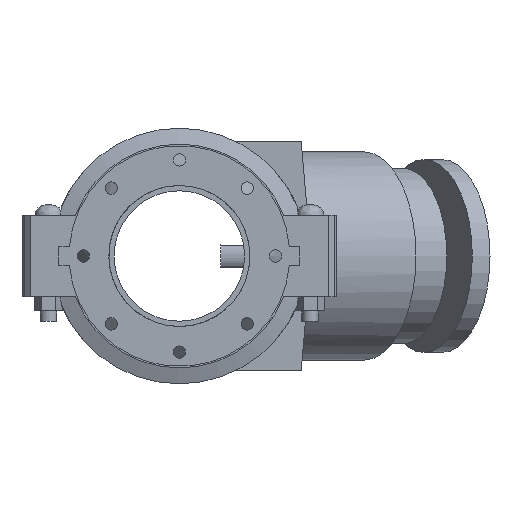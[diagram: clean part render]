
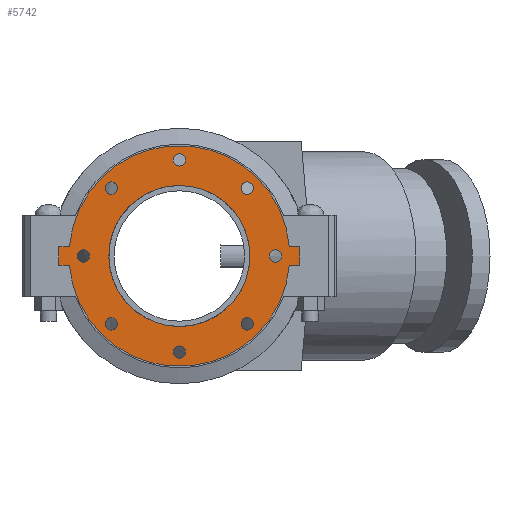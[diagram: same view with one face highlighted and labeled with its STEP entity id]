
A CAD part, front view. The second image highlights one B-rep face of the part: STEP entity #5742.
In plain terms, the highlighted planar face has unit normal (0, -1, 0) as drawn and (0, 0, 1) by its records, which use the part's own axes.
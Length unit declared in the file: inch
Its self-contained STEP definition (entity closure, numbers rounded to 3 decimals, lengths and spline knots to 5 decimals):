
#156=FACE_BOUND('',#763,.T.);
#157=FACE_BOUND('',#764,.T.);
#158=FACE_BOUND('',#765,.T.);
#159=FACE_BOUND('',#766,.T.);
#160=FACE_BOUND('',#767,.T.);
#161=FACE_BOUND('',#768,.T.);
#162=FACE_BOUND('',#769,.T.);
#163=FACE_BOUND('',#770,.T.);
#164=FACE_BOUND('',#771,.T.);
#234=PLANE('',#6293);
#435=FACE_OUTER_BOUND('',#762,.T.);
#762=EDGE_LOOP('',(#3763,#3764,#3765,#3766,#3767,#3768,#3769,#3770));
#763=EDGE_LOOP('',(#3771));
#764=EDGE_LOOP('',(#3772));
#765=EDGE_LOOP('',(#3773));
#766=EDGE_LOOP('',(#3774));
#767=EDGE_LOOP('',(#3775));
#768=EDGE_LOOP('',(#3776));
#769=EDGE_LOOP('',(#3777));
#770=EDGE_LOOP('',(#3778));
#771=EDGE_LOOP('',(#3779,#3780));
#1153=LINE('',#8836,#1572);
#1154=LINE('',#8839,#1573);
#1157=LINE('',#8844,#1576);
#1158=LINE('',#8847,#1577);
#1160=LINE('',#8850,#1579);
#1161=LINE('',#8852,#1580);
#1572=VECTOR('',#7039,0.3937);
#1573=VECTOR('',#7042,0.3937);
#1576=VECTOR('',#7047,0.3937);
#1577=VECTOR('',#7050,0.3937);
#1579=VECTOR('',#7054,0.3937);
#1580=VECTOR('',#7057,0.3937);
#1971=CIRCLE('',#6252,0.375);
#1973=CIRCLE('',#6255,0.375);
#1975=CIRCLE('',#6258,0.375);
#1977=CIRCLE('',#6261,0.375);
#1979=CIRCLE('',#6264,0.375);
#1981=CIRCLE('',#6267,0.375);
#1983=CIRCLE('',#6270,0.375);
#1985=CIRCLE('',#6273,0.375);
#1991=CIRCLE('',#6281,6.75);
#1992=CIRCLE('',#6283,4.3125);
#1993=CIRCLE('',#6284,4.3125);
#1994=CIRCLE('',#6286,6.75);
#2311=VERTEX_POINT('',#8747);
#2313=VERTEX_POINT('',#8753);
#2315=VERTEX_POINT('',#8759);
#2317=VERTEX_POINT('',#8765);
#2319=VERTEX_POINT('',#8771);
#2321=VERTEX_POINT('',#8777);
#2323=VERTEX_POINT('',#8783);
#2325=VERTEX_POINT('',#8789);
#2337=VERTEX_POINT('',#8816);
#2338=VERTEX_POINT('',#8818);
#2339=VERTEX_POINT('',#8822);
#2340=VERTEX_POINT('',#8824);
#2341=VERTEX_POINT('',#8828);
#2342=VERTEX_POINT('',#8830);
#2343=VERTEX_POINT('',#8834);
#2344=VERTEX_POINT('',#8838);
#2345=VERTEX_POINT('',#8842);
#2346=VERTEX_POINT('',#8846);
#2867=EDGE_CURVE('',#2311,#2311,#1971,.T.);
#2870=EDGE_CURVE('',#2313,#2313,#1973,.T.);
#2873=EDGE_CURVE('',#2315,#2315,#1975,.T.);
#2876=EDGE_CURVE('',#2317,#2317,#1977,.T.);
#2879=EDGE_CURVE('',#2319,#2319,#1979,.T.);
#2882=EDGE_CURVE('',#2321,#2321,#1981,.T.);
#2885=EDGE_CURVE('',#2323,#2323,#1983,.T.);
#2888=EDGE_CURVE('',#2325,#2325,#1985,.T.);
#2903=EDGE_CURVE('',#2337,#2338,#1991,.T.);
#2905=EDGE_CURVE('',#2340,#2339,#1992,.T.);
#2906=EDGE_CURVE('',#2339,#2340,#1993,.T.);
#2908=EDGE_CURVE('',#2342,#2341,#1994,.T.);
#2911=EDGE_CURVE('',#2338,#2343,#1153,.T.);
#2912=EDGE_CURVE('',#2344,#2342,#1154,.T.);
#2915=EDGE_CURVE('',#2341,#2345,#1157,.T.);
#2916=EDGE_CURVE('',#2346,#2337,#1158,.T.);
#2918=EDGE_CURVE('',#2345,#2346,#1160,.T.);
#2919=EDGE_CURVE('',#2343,#2344,#1161,.T.);
#3763=ORIENTED_EDGE('',*,*,#2915,.T.);
#3764=ORIENTED_EDGE('',*,*,#2918,.T.);
#3765=ORIENTED_EDGE('',*,*,#2916,.T.);
#3766=ORIENTED_EDGE('',*,*,#2903,.T.);
#3767=ORIENTED_EDGE('',*,*,#2911,.T.);
#3768=ORIENTED_EDGE('',*,*,#2919,.T.);
#3769=ORIENTED_EDGE('',*,*,#2912,.T.);
#3770=ORIENTED_EDGE('',*,*,#2908,.T.);
#3771=ORIENTED_EDGE('',*,*,#2867,.T.);
#3772=ORIENTED_EDGE('',*,*,#2870,.T.);
#3773=ORIENTED_EDGE('',*,*,#2873,.T.);
#3774=ORIENTED_EDGE('',*,*,#2876,.T.);
#3775=ORIENTED_EDGE('',*,*,#2879,.T.);
#3776=ORIENTED_EDGE('',*,*,#2882,.T.);
#3777=ORIENTED_EDGE('',*,*,#2885,.T.);
#3778=ORIENTED_EDGE('',*,*,#2888,.T.);
#3779=ORIENTED_EDGE('',*,*,#2905,.T.);
#3780=ORIENTED_EDGE('',*,*,#2906,.T.);
#5742=ADVANCED_FACE('',(#435,#156,#157,#158,#159,#160,#161,#162,#163,#164),
#234,.T.);
#6252=AXIS2_PLACEMENT_3D('',#8748,#6947,#6948);
#6255=AXIS2_PLACEMENT_3D('',#8754,#6954,#6955);
#6258=AXIS2_PLACEMENT_3D('',#8760,#6961,#6962);
#6261=AXIS2_PLACEMENT_3D('',#8766,#6968,#6969);
#6264=AXIS2_PLACEMENT_3D('',#8772,#6975,#6976);
#6267=AXIS2_PLACEMENT_3D('',#8778,#6982,#6983);
#6270=AXIS2_PLACEMENT_3D('',#8784,#6989,#6990);
#6273=AXIS2_PLACEMENT_3D('',#8790,#6996,#6997);
#6281=AXIS2_PLACEMENT_3D('',#8820,#7021,#7022);
#6283=AXIS2_PLACEMENT_3D('',#8825,#7026,#7027);
#6284=AXIS2_PLACEMENT_3D('',#8826,#7028,#7029);
#6286=AXIS2_PLACEMENT_3D('',#8831,#7033,#7034);
#6293=AXIS2_PLACEMENT_3D('',#8853,#7058,#7059);
#6947=DIRECTION('center_axis',(0.,0.,-1.));
#6948=DIRECTION('ref_axis',(-0.707,0.707,0.));
#6954=DIRECTION('center_axis',(0.,0.,-1.));
#6955=DIRECTION('ref_axis',(0.,1.,0.));
#6961=DIRECTION('center_axis',(0.,0.,-1.));
#6962=DIRECTION('ref_axis',(0.707,0.707,0.));
#6968=DIRECTION('center_axis',(0.,0.,-1.));
#6969=DIRECTION('ref_axis',(1.,0.,0.));
#6975=DIRECTION('center_axis',(0.,0.,-1.));
#6976=DIRECTION('ref_axis',(0.707,-0.707,0.));
#6982=DIRECTION('center_axis',(0.,0.,-1.));
#6983=DIRECTION('ref_axis',(0.,-1.,0.));
#6989=DIRECTION('center_axis',(0.,0.,-1.));
#6990=DIRECTION('ref_axis',(-0.707,-0.707,0.));
#6996=DIRECTION('center_axis',(0.,0.,-1.));
#6997=DIRECTION('ref_axis',(-1.,0.,0.));
#7021=DIRECTION('center_axis',(0.,0.,1.));
#7022=DIRECTION('ref_axis',(-1.,0.,0.));
#7026=DIRECTION('center_axis',(0.,0.,-1.));
#7027=DIRECTION('ref_axis',(-1.,0.,0.));
#7028=DIRECTION('center_axis',(0.,0.,-1.));
#7029=DIRECTION('ref_axis',(-1.,0.,0.));
#7033=DIRECTION('center_axis',(0.,0.,1.));
#7034=DIRECTION('ref_axis',(-1.,0.,0.));
#7039=DIRECTION('',(0.,1.,0.));
#7042=DIRECTION('',(0.,-1.,0.));
#7047=DIRECTION('',(0.,-1.,0.));
#7050=DIRECTION('',(0.,1.,0.));
#7054=DIRECTION('',(1.,0.,0.));
#7057=DIRECTION('',(-1.,0.,0.));
#7058=DIRECTION('center_axis',(0.,0.,1.));
#7059=DIRECTION('ref_axis',(1.,0.,0.));
#8747=CARTESIAN_POINT('',(-3.88909,3.88909,0.565));
#8748=CARTESIAN_POINT('Origin',(-4.15425,4.15425,0.565));
#8753=CARTESIAN_POINT('',(0.,5.5,0.565));
#8754=CARTESIAN_POINT('Origin',(0.,5.875,0.565));
#8759=CARTESIAN_POINT('',(3.88909,3.88909,0.565));
#8760=CARTESIAN_POINT('Origin',(4.15425,4.15425,0.565));
#8765=CARTESIAN_POINT('',(5.5,0.,0.565));
#8766=CARTESIAN_POINT('Origin',(5.875,0.,0.565));
#8771=CARTESIAN_POINT('',(3.88909,-3.88909,0.565));
#8772=CARTESIAN_POINT('Origin',(4.15425,-4.15425,0.565));
#8777=CARTESIAN_POINT('',(0.,-5.5,0.565));
#8778=CARTESIAN_POINT('Origin',(0.,-5.875,0.565));
#8783=CARTESIAN_POINT('',(-3.88909,-3.88909,0.565));
#8784=CARTESIAN_POINT('Origin',(-4.15425,-4.15425,0.565));
#8789=CARTESIAN_POINT('',(-5.5,0.,0.565));
#8790=CARTESIAN_POINT('Origin',(-5.875,0.,0.565));
#8816=CARTESIAN_POINT('',(0.565,-6.72631,0.565));
#8818=CARTESIAN_POINT('',(0.565,6.72631,0.565));
#8820=CARTESIAN_POINT('Origin',(0.,0.,0.565));
#8822=CARTESIAN_POINT('',(4.3125,0.,0.565));
#8824=CARTESIAN_POINT('',(0.565,4.27533,0.565));
#8825=CARTESIAN_POINT('Origin',(0.,0.,0.565));
#8826=CARTESIAN_POINT('Origin',(0.,0.,0.565));
#8828=CARTESIAN_POINT('',(-0.565,-6.72631,0.565));
#8830=CARTESIAN_POINT('',(-0.565,6.72631,0.565));
#8831=CARTESIAN_POINT('Origin',(0.,0.,0.565));
#8834=CARTESIAN_POINT('',(0.565,7.375,0.565));
#8836=CARTESIAN_POINT('',(0.565,7.375,0.565));
#8838=CARTESIAN_POINT('',(-0.565,7.375,0.565));
#8839=CARTESIAN_POINT('',(-0.565,-7.375,0.565));
#8842=CARTESIAN_POINT('',(-0.565,-7.375,0.565));
#8844=CARTESIAN_POINT('',(-0.565,-7.375,0.565));
#8846=CARTESIAN_POINT('',(0.565,-7.375,0.565));
#8847=CARTESIAN_POINT('',(0.565,7.375,0.565));
#8850=CARTESIAN_POINT('',(0.565,-7.375,0.565));
#8852=CARTESIAN_POINT('',(-0.565,7.375,0.565));
#8853=CARTESIAN_POINT('Origin',(0.,0.,0.565));
